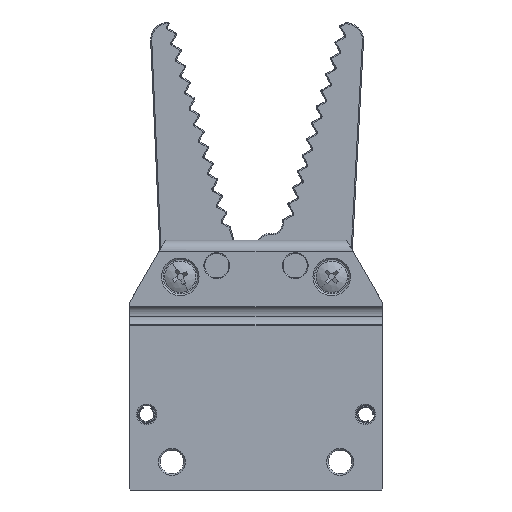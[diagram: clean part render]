
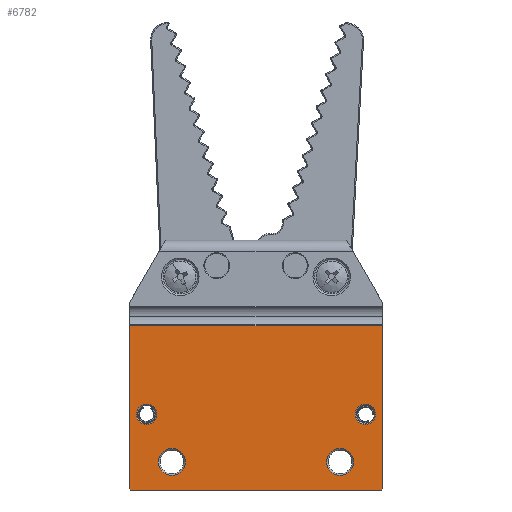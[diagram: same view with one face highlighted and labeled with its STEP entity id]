
A CAD part, front view. The second image highlights one B-rep face of the part: STEP entity #6782.
In plain terms, the highlighted planar face has unit normal (0, -1, 0).
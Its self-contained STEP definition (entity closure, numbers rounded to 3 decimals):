
#5787=PLANE('',#25232);
#5904=FACE_BOUND('',#9817,.T.);
#5905=FACE_BOUND('',#9818,.T.);
#5906=FACE_BOUND('',#9819,.T.);
#5907=FACE_BOUND('',#9820,.T.);
#6782=ADVANCED_FACE('',(#5904,#5905,#5906,#5907,#8587),#5787,.T.);
#8587=FACE_OUTER_BOUND('',#9821,.T.);
#9817=EDGE_LOOP('',(#15911,#15912));
#9818=EDGE_LOOP('',(#15913,#15914));
#9819=EDGE_LOOP('',(#15915,#15916));
#9820=EDGE_LOOP('',(#15917,#15918));
#9821=EDGE_LOOP('',(#15919,#15920,#15921,#15922,#15923,#15924));
#11323=LINE('',#35835,#12814);
#11375=LINE('',#35981,#12866);
#11383=LINE('',#36001,#12874);
#11393=LINE('',#36035,#12884);
#11394=LINE('',#36036,#12885);
#11395=LINE('',#36037,#12886);
#12814=VECTOR('',#29200,1.);
#12866=VECTOR('',#29310,1.);
#12874=VECTOR('',#29332,1.);
#12884=VECTOR('',#29358,1.);
#12885=VECTOR('',#29359,1.);
#12886=VECTOR('',#29360,1.);
#15911=ORIENTED_EDGE('',*,*,#21518,.T.);
#15912=ORIENTED_EDGE('',*,*,#21722,.T.);
#15913=ORIENTED_EDGE('',*,*,#21514,.T.);
#15914=ORIENTED_EDGE('',*,*,#21723,.T.);
#15915=ORIENTED_EDGE('',*,*,#21564,.T.);
#15916=ORIENTED_EDGE('',*,*,#21724,.T.);
#15917=ORIENTED_EDGE('',*,*,#21559,.T.);
#15918=ORIENTED_EDGE('',*,*,#21725,.T.);
#15919=ORIENTED_EDGE('',*,*,#21619,.F.);
#15920=ORIENTED_EDGE('',*,*,#21726,.T.);
#15921=ORIENTED_EDGE('',*,*,#21710,.T.);
#15922=ORIENTED_EDGE('',*,*,#21727,.T.);
#15923=ORIENTED_EDGE('',*,*,#21697,.T.);
#15924=ORIENTED_EDGE('',*,*,#21728,.T.);
#19573=VERTEX_POINT('',#35608);
#19574=VERTEX_POINT('',#35610);
#19577=VERTEX_POINT('',#35617);
#19578=VERTEX_POINT('',#35619);
#19617=VERTEX_POINT('',#35708);
#19618=VERTEX_POINT('',#35710);
#19622=VERTEX_POINT('',#35719);
#19623=VERTEX_POINT('',#35721);
#19664=VERTEX_POINT('',#35834);
#19665=VERTEX_POINT('',#35836);
#19729=VERTEX_POINT('',#35980);
#19730=VERTEX_POINT('',#35982);
#19735=VERTEX_POINT('',#36002);
#19736=VERTEX_POINT('',#36003);
#21514=EDGE_CURVE('',#19574,#19573,#23500,.T.);
#21518=EDGE_CURVE('',#19578,#19577,#23502,.T.);
#21559=EDGE_CURVE('',#19618,#19617,#23523,.T.);
#21564=EDGE_CURVE('',#19623,#19622,#23526,.T.);
#21619=EDGE_CURVE('',#19664,#19665,#11323,.T.);
#21697=EDGE_CURVE('',#19730,#19729,#11375,.T.);
#21710=EDGE_CURVE('',#19735,#19736,#11383,.T.);
#21722=EDGE_CURVE('',#19577,#19578,#23577,.T.);
#21723=EDGE_CURVE('',#19573,#19574,#23578,.T.);
#21724=EDGE_CURVE('',#19622,#19623,#23579,.T.);
#21725=EDGE_CURVE('',#19617,#19618,#23580,.T.);
#21726=EDGE_CURVE('',#19664,#19735,#11393,.T.);
#21727=EDGE_CURVE('',#19736,#19730,#11394,.T.);
#21728=EDGE_CURVE('',#19729,#19665,#11395,.T.);
#23500=CIRCLE('',#25112,2.4);
#23502=CIRCLE('',#25115,2.4);
#23523=CIRCLE('',#25146,1.8);
#23526=CIRCLE('',#25150,1.8);
#23577=CIRCLE('',#25228,2.4);
#23578=CIRCLE('',#25229,2.4);
#23579=CIRCLE('',#25230,1.8);
#23580=CIRCLE('',#25231,1.8);
#25112=AXIS2_PLACEMENT_3D('',#35609,#28989,#28990);
#25115=AXIS2_PLACEMENT_3D('',#35618,#28997,#28998);
#25146=AXIS2_PLACEMENT_3D('',#35709,#29079,#29080);
#25150=AXIS2_PLACEMENT_3D('',#35720,#29089,#29090);
#25228=AXIS2_PLACEMENT_3D('',#36031,#29350,#29351);
#25229=AXIS2_PLACEMENT_3D('',#36032,#29352,#29353);
#25230=AXIS2_PLACEMENT_3D('',#36033,#29354,#29355);
#25231=AXIS2_PLACEMENT_3D('',#36034,#29356,#29357);
#25232=AXIS2_PLACEMENT_3D('',#36038,#29361,#29362);
#28989=DIRECTION('',(0.,1.,0.));
#28990=DIRECTION('',(0.,0.,-1.));
#28997=DIRECTION('',(0.,1.,0.));
#28998=DIRECTION('',(0.,0.,-1.));
#29079=DIRECTION('',(0.,1.,0.));
#29080=DIRECTION('',(0.,0.,-1.));
#29089=DIRECTION('',(0.,1.,0.));
#29090=DIRECTION('',(0.,0.,-1.));
#29200=DIRECTION('',(0.,0.,1.));
#29310=DIRECTION('',(0.,0.,1.));
#29332=DIRECTION('',(1.,0.,0.));
#29350=DIRECTION('',(0.,1.,0.));
#29351=DIRECTION('',(0.,0.,-1.));
#29352=DIRECTION('',(0.,1.,0.));
#29353=DIRECTION('',(0.,0.,-1.));
#29354=DIRECTION('',(0.,1.,0.));
#29355=DIRECTION('',(0.,0.,-1.));
#29356=DIRECTION('',(0.,1.,0.));
#29357=DIRECTION('',(0.,0.,-1.));
#29358=DIRECTION('',(0.707,0.,-0.707));
#29359=DIRECTION('',(0.707,0.,0.707));
#29360=DIRECTION('',(-1.,0.,0.));
#29361=DIRECTION('',(0.,-1.,0.));
#29362=DIRECTION('',(0.,0.,-1.));
#35608=CARTESIAN_POINT('',(-15.,-12.5,-37.1));
#35609=CARTESIAN_POINT('',(-15.,-12.5,-39.5));
#35610=CARTESIAN_POINT('',(-15.,-12.5,-41.9));
#35617=CARTESIAN_POINT('',(15.,-12.5,-37.1));
#35618=CARTESIAN_POINT('',(15.,-12.5,-39.5));
#35619=CARTESIAN_POINT('',(15.,-12.5,-41.9));
#35708=CARTESIAN_POINT('',(-19.5,-12.5,-29.2));
#35709=CARTESIAN_POINT('',(-19.5,-12.5,-31.));
#35710=CARTESIAN_POINT('',(-19.5,-12.5,-32.8));
#35719=CARTESIAN_POINT('',(19.5,-12.5,-29.2));
#35720=CARTESIAN_POINT('',(19.5,-12.5,-31.));
#35721=CARTESIAN_POINT('',(19.5,-12.5,-32.8));
#35834=CARTESIAN_POINT('',(-22.5,-12.5,-44.3));
#35835=CARTESIAN_POINT('',(-22.5,-12.5,-44.5));
#35836=CARTESIAN_POINT('',(-22.5,-12.5,-15.2));
#35980=CARTESIAN_POINT('',(22.5,-12.5,-15.2));
#35981=CARTESIAN_POINT('',(22.5,-12.5,-44.5));
#35982=CARTESIAN_POINT('',(22.5,-12.5,-44.3));
#36001=CARTESIAN_POINT('',(-22.5,-12.5,-44.5));
#36002=CARTESIAN_POINT('',(-22.3,-12.5,-44.5));
#36003=CARTESIAN_POINT('',(22.3,-12.5,-44.5));
#36031=CARTESIAN_POINT('',(15.,-12.5,-39.5));
#36032=CARTESIAN_POINT('',(-15.,-12.5,-39.5));
#36033=CARTESIAN_POINT('',(19.5,-12.5,-31.));
#36034=CARTESIAN_POINT('',(-19.5,-12.5,-31.));
#36035=CARTESIAN_POINT('',(-22.4,-12.5,-44.4));
#36036=CARTESIAN_POINT('',(-0.1,-12.5,-66.9));
#36037=CARTESIAN_POINT('',(-22.5,-12.5,-15.2));
#36038=CARTESIAN_POINT('',(-22.5,-12.5,-44.5));
